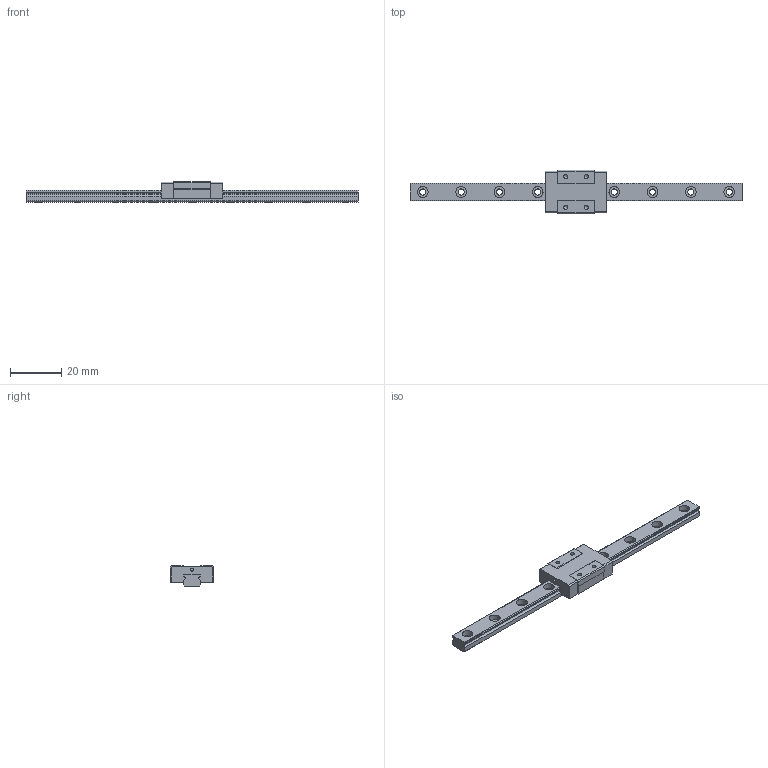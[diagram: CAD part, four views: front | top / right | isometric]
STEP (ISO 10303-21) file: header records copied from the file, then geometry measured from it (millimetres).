
FILE_DESCRIPTION((''),'2;1');
FILE_NAME('C:\Documents and Settings\土屋\My Documents\土屋移動用フォルダ\製品 (図面)\カタログ用3D\リニアガイド\EGM\EGM7.stp','2015-02-21T13:05:51',('y'),(''),'Autodesk Inventor 11','Autodesk Inventor 11','');
FILE_SCHEMA(('AUTOMOTIVE_DESIGN { 1 0 10303 214 1 1 1 1 }'));
Length unit declared in the file: millimetre
Products named in the file (3): EGM7; EGM7レール; EGM7ベアリング
Assembly tree (2 placements, depth 2):
  EGM7
    EGM7レール
    EGM7ベアリング
Bounding box: 130 x 17 x 8 mm (x, y, z)
Volume: 5593.7 mm3; surface area: 5242.5 mm2
Topology: 2 solids, 2 shells, 101 faces, 258 edges, 172 vertices
Faces by surface type: plane 46, bspline 37, cylinder 18
Full cylindrical faces by diameter (mm): 1.1 x1
Entity records: 3325 total; most frequent: CARTESIAN_POINT 981, ORIENTED_EDGE 444, DIRECTION 442, EDGE_CURVE 222, VERTEX_POINT 164, EDGE_LOOP 158, AXIS2_PLACEMENT_3D 151, VECTOR 140
